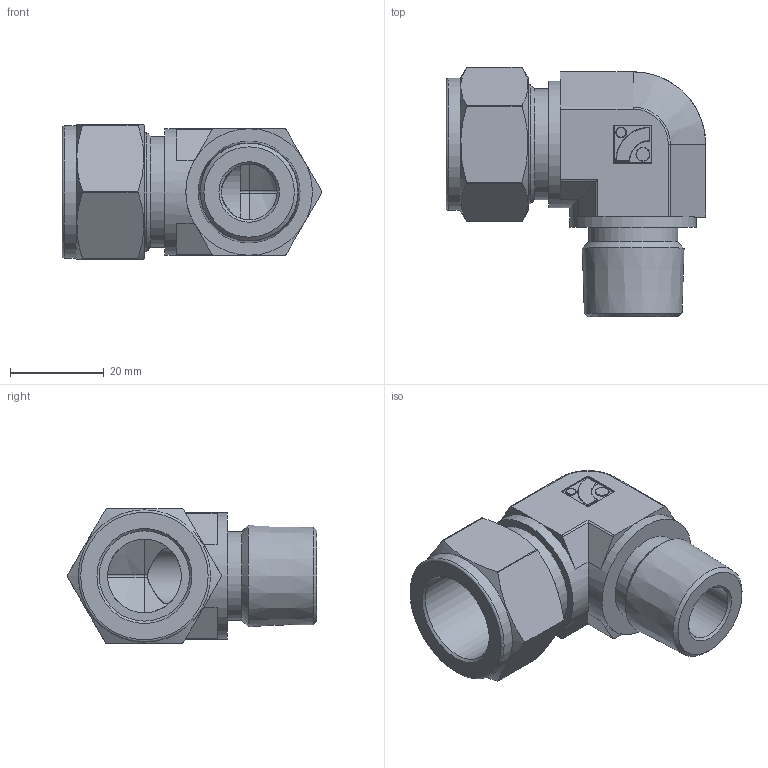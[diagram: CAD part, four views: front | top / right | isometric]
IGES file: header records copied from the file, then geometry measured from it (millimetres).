
Global section: file name: No Iges File Name specified; native system: Autodesk Inventor 2012; preprocessor: AutoDesk Inventor Iges Exporter R2012; author: 硅己绕,, ; organization: 11; date: 20150703.114403; units: millimetre
Bounding box: 55.41 x 53.3 x 28.6 mm (x, y, z)
Volume: 29187.3 mm3; surface area: 11219.7 mm2
Topology: 1 solids, 1 shells, 130 faces, 292 edges, 169 vertices
Faces by surface type: plane 42, cylinder 35, revolution 29, torus 12, cone 8, sphere 4
Full cylindrical faces by diameter (mm): 2.16 x1, 2.88 x1, 19 x1, 23.7 x1, 25.4 x1, 27 x2, 28.2 x1
